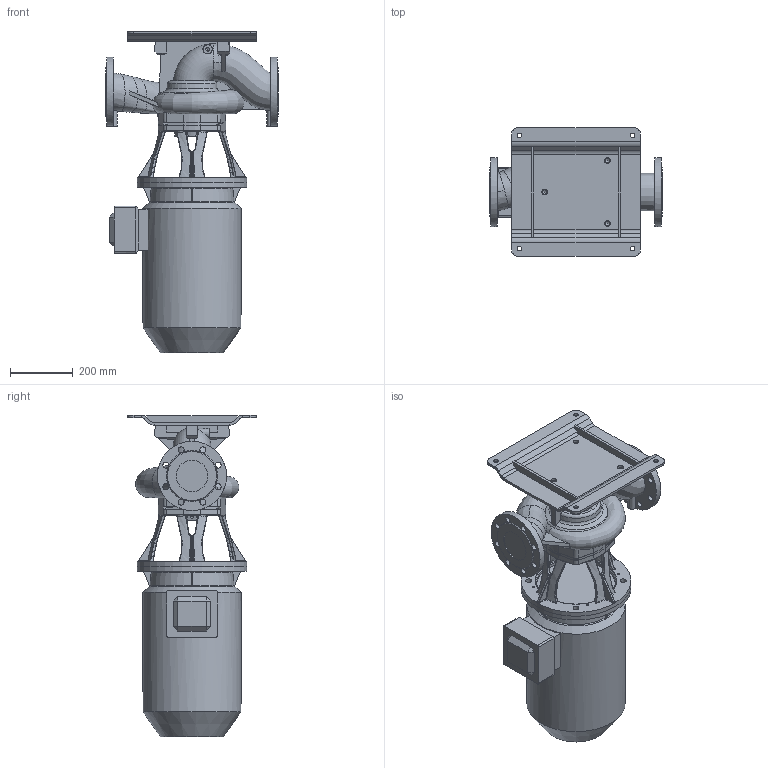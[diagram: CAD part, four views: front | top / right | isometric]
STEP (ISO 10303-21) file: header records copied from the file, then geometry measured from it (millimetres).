
FILE_DESCRIPTION (( 'STEP AP203' ), '1' );
FILE_NAME ('KI100-180_2_18,5kW.STEP', '2024-07-29T07:04:50', ( '' ), ( '' ), 'SwSTEP 2.0', 'SolidWorks 2023', '' );
FILE_SCHEMA (( 'CONFIG_CONTROL_DESIGN' ));
Length unit declared in the file: millimetre
Products named in the file (11): 220426; 230083; KI100-180_2_18,5kW; 230494; 220511; 230490; 440186_solid; 230084; 230085; 220508; 220427
Assembly tree (11 placements, depth 3):
  KI100-180_2_18,5kW
    440186_solid
    220511
      220508
    230494
      230490
    220427
      220426
    230085
      230083
      230084  x2
Bounding box: 550 x 408.67 x 1024.21 mm (x, y, z)
Volume: 59796170.7 mm3; surface area: 2209022.2 mm2
Topology: 7 solids, 7 shells, 1033 faces, 2666 edges, 1615 vertices
Faces by surface type: bspline 313, plane 287, cylinder 257, torus 84, cone 70, sphere 22
Full cylindrical faces by diameter (mm): 5 x4, 6 x3, 6.8 x4, 7 x4, 10.2 x4, 11.8 x4, 14 x7, 14.5 x4, 18 x3, 19 x24, 100 x2, 150 x1, 189 x1, 194 x1, 220 x2, 250 x1, 313 x1, 350 x2
Entity records: 79611 total; most frequent: CARTESIAN_POINT 56612, ORIENTED_EDGE 4942, DIRECTION 3977, EDGE_CURVE 2471, AXIS2_PLACEMENT_3D 1633, VERTEX_POINT 1546, EDGE_LOOP 1211, FACE_OUTER_BOUND 1098
